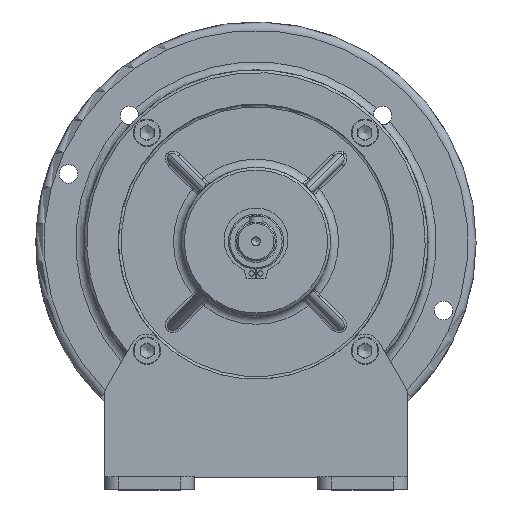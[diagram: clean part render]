
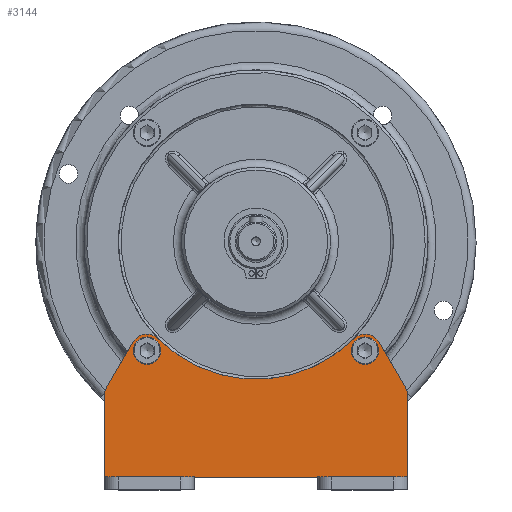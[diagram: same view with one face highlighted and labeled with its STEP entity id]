
A CAD part, top view. The second image highlights one B-rep face of the part: STEP entity #3144.
In plain terms, the highlighted planar face has unit normal (0, 0, 1).
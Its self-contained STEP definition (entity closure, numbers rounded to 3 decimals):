
#191 = CARTESIAN_POINT ( 'NONE',  ( -55., -54.248, 88.4 ) ) ;
#300 = CARTESIAN_POINT ( 'NONE',  ( 0., 0., 88.4 ) ) ;
#373 = DIRECTION ( 'NONE',  ( 1., 0., 0. ) ) ;
#700 = DIRECTION ( 'NONE',  ( 0., -1., 0. ) ) ;
#755 = VERTEX_POINT ( 'NONE', #9498 ) ;
#818 = CARTESIAN_POINT ( 'NONE',  ( -39.608, -39.588, 88.4 ) ) ;
#835 = EDGE_CURVE ( 'NONE', #2694, #5723, #2106, .T. ) ;
#1061 = AXIS2_PLACEMENT_3D ( 'NONE', #6529, #6440, #1902 ) ;
#1144 = CARTESIAN_POINT ( 'NONE',  ( 55., -33.588, 88.4 ) ) ;
#1414 = ORIENTED_EDGE ( 'NONE', *, *, #3966, .F. ) ;
#1539 = EDGE_LOOP ( 'NONE', ( #6825 ) ) ;
#1639 = EDGE_CURVE ( 'NONE', #11067, #11067, #5422, .T. ) ;
#1897 = EDGE_CURVE ( 'NONE', #8115, #2694, #8141, .T. ) ;
#1902 = DIRECTION ( 'NONE',  ( 1., 0., 0. ) ) ;
#1936 = CARTESIAN_POINT ( 'NONE',  ( -44.804, -36.588, 88.4 ) ) ;
#2039 = DIRECTION ( 'NONE',  ( 0., 0., 1. ) ) ;
#2061 = DIRECTION ( 'NONE',  ( 1., 0., 0. ) ) ;
#2101 = CARTESIAN_POINT ( 'NONE',  ( 44.598, -39.598, 88.4 ) ) ;
#2106 = LINE ( 'NONE', #191, #4725 ) ;
#2171 = VECTOR ( 'NONE', #9435, 1000. ) ;
#2368 = ORIENTED_EDGE ( 'NONE', *, *, #7698, .T. ) ;
#2462 = LINE ( 'NONE', #11625, #4078 ) ;
#2685 = EDGE_LOOP ( 'NONE', ( #1414, #2368, #9408, #5756, #5003, #8411, #5716, #7015, #9682, #11599 ) ) ;
#2694 = VERTEX_POINT ( 'NONE', #4103 ) ;
#2781 = FACE_OUTER_BOUND ( 'NONE', #2685, .T. ) ;
#2911 = DIRECTION ( 'NONE',  ( 0., 1., 0. ) ) ;
#3064 = CARTESIAN_POINT ( 'NONE',  ( -55., -33.588, 88.4 ) ) ;
#3076 = AXIS2_PLACEMENT_3D ( 'NONE', #8505, #2039, #11156 ) ;
#3102 = CARTESIAN_POINT ( 'NONE',  ( 22.5, -85.488, 88.4 ) ) ;
#3144 = ADVANCED_FACE ( 'NONE', ( #10363, #7580, #2781 ), #7660, .F. ) ;
#3165 = VERTEX_POINT ( 'NONE', #3102 ) ;
#3179 = VERTEX_POINT ( 'NONE', #10643 ) ;
#3356 = CARTESIAN_POINT ( 'NONE',  ( 44.804, -36.588, 88.4 ) ) ;
#3553 = CARTESIAN_POINT ( 'NONE',  ( -35.364, -35.347, 88.4 ) ) ;
#3966 = EDGE_CURVE ( 'NONE', #7282, #6120, #5676, .T. ) ;
#3993 = DIRECTION ( 'NONE',  ( 0., 1., 0. ) ) ;
#4078 = VECTOR ( 'NONE', #9097, 1000. ) ;
#4103 = CARTESIAN_POINT ( 'NONE',  ( -55., -54.248, 88.4 ) ) ;
#4165 = EDGE_CURVE ( 'NONE', #8387, #6680, #2462, .T. ) ;
#4508 = AXIS2_PLACEMENT_3D ( 'NONE', #300, #6800, #3993 ) ;
#4725 = VECTOR ( 'NONE', #4785, 1000. ) ;
#4785 = DIRECTION ( 'NONE',  ( 0.5, 0.866, 0. ) ) ;
#5003 = ORIENTED_EDGE ( 'NONE', *, *, #10200, .T. ) ;
#5036 = CARTESIAN_POINT ( 'NONE',  ( 55., -54.248, 88.4 ) ) ;
#5250 = VECTOR ( 'NONE', #2061, 1000. ) ;
#5274 = LINE ( 'NONE', #5412, #6289 ) ;
#5412 = CARTESIAN_POINT ( 'NONE',  ( -55., -85.488, 88.4 ) ) ;
#5422 = CIRCLE ( 'NONE', #1061, 5. ) ;
#5655 = VECTOR ( 'NONE', #2911, 1000. ) ;
#5676 = CIRCLE ( 'NONE', #4508, 50. ) ;
#5716 = ORIENTED_EDGE ( 'NONE', *, *, #6553, .T. ) ;
#5721 = DIRECTION ( 'NONE',  ( 0., 1., 0. ) ) ;
#5723 = VERTEX_POINT ( 'NONE', #1936 ) ;
#5756 = ORIENTED_EDGE ( 'NONE', *, *, #1897, .F. ) ;
#5852 = CIRCLE ( 'NONE', #3076, 6. ) ;
#5904 = CIRCLE ( 'NONE', #8811, 5. ) ;
#6094 = EDGE_CURVE ( 'NONE', #3179, #3165, #5274, .T. ) ;
#6120 = VERTEX_POINT ( 'NONE', #9168 ) ;
#6274 = AXIS2_PLACEMENT_3D ( 'NONE', #3064, #10485, #9580 ) ;
#6289 = VECTOR ( 'NONE', #9214, 1000. ) ;
#6386 = VERTEX_POINT ( 'NONE', #11369 ) ;
#6440 = DIRECTION ( 'NONE',  ( 0., 0., 1. ) ) ;
#6529 = CARTESIAN_POINT ( 'NONE',  ( 39.598, -39.598, 88.4 ) ) ;
#6553 = EDGE_CURVE ( 'NONE', #3165, #755, #10188, .T. ) ;
#6680 = VERTEX_POINT ( 'NONE', #5036 ) ;
#6800 = DIRECTION ( 'NONE',  ( 0., 0., 1. ) ) ;
#6825 = ORIENTED_EDGE ( 'NONE', *, *, #1639, .F. ) ;
#6938 = ORIENTED_EDGE ( 'NONE', *, *, #7843, .F. ) ;
#7015 = ORIENTED_EDGE ( 'NONE', *, *, #7793, .T. ) ;
#7282 = VERTEX_POINT ( 'NONE', #3553 ) ;
#7333 = CARTESIAN_POINT ( 'NONE',  ( -55., -85.488, 88.4 ) ) ;
#7493 = VECTOR ( 'NONE', #5721, 1000. ) ;
#7580 = FACE_BOUND ( 'NONE', #7680, .T. ) ;
#7660 = PLANE ( 'NONE',  #6274 ) ;
#7680 = EDGE_LOOP ( 'NONE', ( #6938 ) ) ;
#7698 = EDGE_CURVE ( 'NONE', #7282, #5723, #10272, .T. ) ;
#7793 = EDGE_CURVE ( 'NONE', #755, #6680, #10856, .T. ) ;
#7843 = EDGE_CURVE ( 'NONE', #6386, #6386, #5904, .T. ) ;
#7878 = LINE ( 'NONE', #9424, #5250 ) ;
#8115 = VERTEX_POINT ( 'NONE', #7333 ) ;
#8141 = LINE ( 'NONE', #9466, #5655 ) ;
#8387 = VERTEX_POINT ( 'NONE', #3356 ) ;
#8411 = ORIENTED_EDGE ( 'NONE', *, *, #6094, .T. ) ;
#8505 = CARTESIAN_POINT ( 'NONE',  ( 39.608, -39.588, 88.4 ) ) ;
#8777 = CARTESIAN_POINT ( 'NONE',  ( -39.598, -39.598, 88.4 ) ) ;
#8811 = AXIS2_PLACEMENT_3D ( 'NONE', #8777, #9592, #373 ) ;
#8990 = DIRECTION ( 'NONE',  ( 0., 0., 1. ) ) ;
#9097 = DIRECTION ( 'NONE',  ( 0.5, -0.866, 0. ) ) ;
#9168 = CARTESIAN_POINT ( 'NONE',  ( 35.364, -35.347, 88.4 ) ) ;
#9214 = DIRECTION ( 'NONE',  ( 1., 0., 0. ) ) ;
#9408 = ORIENTED_EDGE ( 'NONE', *, *, #835, .F. ) ;
#9424 = CARTESIAN_POINT ( 'NONE',  ( -55., -85.488, 88.4 ) ) ;
#9435 = DIRECTION ( 'NONE',  ( 1., 0., 0. ) ) ;
#9466 = CARTESIAN_POINT ( 'NONE',  ( -55., -33.588, 88.4 ) ) ;
#9498 = CARTESIAN_POINT ( 'NONE',  ( 55., -85.488, 88.4 ) ) ;
#9580 = DIRECTION ( 'NONE',  ( 0., -1., 0. ) ) ;
#9592 = DIRECTION ( 'NONE',  ( 0., 0., 1. ) ) ;
#9682 = ORIENTED_EDGE ( 'NONE', *, *, #4165, .F. ) ;
#10188 = LINE ( 'NONE', #11339, #2171 ) ;
#10200 = EDGE_CURVE ( 'NONE', #8115, #3179, #7878, .T. ) ;
#10272 = CIRCLE ( 'NONE', #11239, 6. ) ;
#10363 = FACE_BOUND ( 'NONE', #1539, .T. ) ;
#10485 = DIRECTION ( 'NONE',  ( 0., 0., -1. ) ) ;
#10643 = CARTESIAN_POINT ( 'NONE',  ( -22.5, -85.488, 88.4 ) ) ;
#10856 = LINE ( 'NONE', #1144, #7493 ) ;
#10905 = EDGE_CURVE ( 'NONE', #8387, #6120, #5852, .T. ) ;
#11067 = VERTEX_POINT ( 'NONE', #2101 ) ;
#11156 = DIRECTION ( 'NONE',  ( 0., -1., 0. ) ) ;
#11239 = AXIS2_PLACEMENT_3D ( 'NONE', #818, #8990, #700 ) ;
#11339 = CARTESIAN_POINT ( 'NONE',  ( -55., -85.488, 88.4 ) ) ;
#11369 = CARTESIAN_POINT ( 'NONE',  ( -34.598, -39.598, 88.4 ) ) ;
#11599 = ORIENTED_EDGE ( 'NONE', *, *, #10905, .T. ) ;
#11625 = CARTESIAN_POINT ( 'NONE',  ( 55., -54.248, 88.4 ) ) ;
